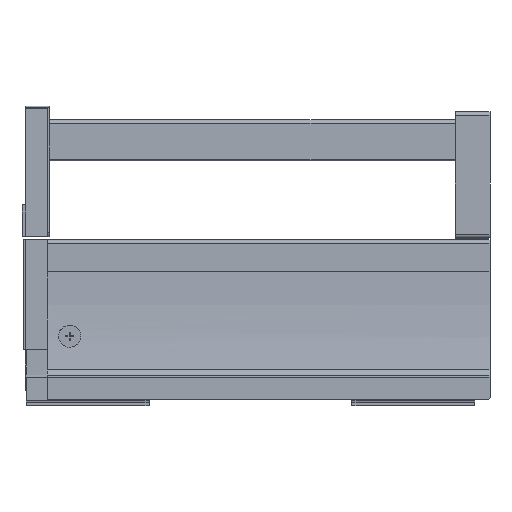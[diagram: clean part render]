
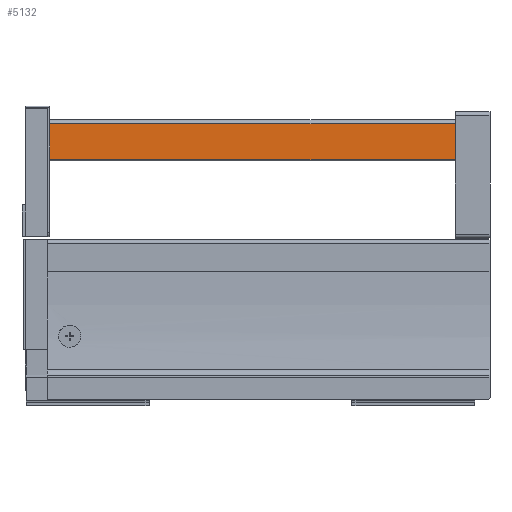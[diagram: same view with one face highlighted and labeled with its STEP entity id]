
A CAD part, left-side view. The second image highlights one B-rep face of the part: STEP entity #5132.
In plain terms, the highlighted planar face has unit normal (-1, 0, 0).
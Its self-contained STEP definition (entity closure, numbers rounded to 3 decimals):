
#480 = EDGE_CURVE ( 'NONE', #4769, #4768, #3591, .T. ) ;
#642 = EDGE_CURVE ( 'NONE', #4556, #4769, #3755, .T. ) ;
#656 = EDGE_CURVE ( 'NONE', #4555, #4768, #3786, .T. ) ;
#660 = EDGE_CURVE ( 'NONE', #4555, #4556, #3794, .T. ) ;
#1264 = FACE_OUTER_BOUND ( 'NONE', #2926, .T. ) ;
#1389 = CARTESIAN_POINT ( 'NONE',  ( -17.15, 25.45, 166.098 ) ) ;
#1396 = DIRECTION ( 'NONE',  ( 0., 0., -1. ) ) ;
#1585 = CARTESIAN_POINT ( 'NONE',  ( -17.15, 438.5, 166.098 ) ) ;
#1603 = DIRECTION ( 'NONE',  ( 0., -1., 0. ) ) ;
#1632 = CARTESIAN_POINT ( 'NONE',  ( -17.15, 438.5, 140.048 ) ) ;
#1633 = DIRECTION ( 'NONE',  ( 0., -1., 0. ) ) ;
#1641 = CARTESIAN_POINT ( 'NONE',  ( -17.15, 322.25, 166.098 ) ) ;
#1642 = DIRECTION ( 'NONE',  ( 0., 0., 1. ) ) ;
#1985 = CARTESIAN_POINT ( 'NONE',  ( -17.15, 322.25, 140.048 ) ) ;
#1986 = CARTESIAN_POINT ( 'NONE',  ( -17.15, 322.25, 166.098 ) ) ;
#2198 = CARTESIAN_POINT ( 'NONE',  ( -17.15, 25.45, 140.048 ) ) ;
#2199 = CARTESIAN_POINT ( 'NONE',  ( -17.15, 25.45, 166.098 ) ) ;
#2798 = CARTESIAN_POINT ( 'NONE',  ( -17.15, 438.5, 166.098 ) ) ;
#2799 = PLANE ( 'NONE',  #4113 ) ;
#2800 = DIRECTION ( 'NONE',  ( -1., 0., 0. ) ) ;
#2801 = DIRECTION ( 'NONE',  ( 0., 0., -1. ) ) ;
#2926 = EDGE_LOOP ( 'NONE', ( #3113, #3114, #3115, #3116 ) ) ;
#3113 = ORIENTED_EDGE ( 'NONE', *, *, #656, .T. ) ;
#3114 = ORIENTED_EDGE ( 'NONE', *, *, #480, .F. ) ;
#3115 = ORIENTED_EDGE ( 'NONE', *, *, #642, .F. ) ;
#3116 = ORIENTED_EDGE ( 'NONE', *, *, #660, .F. ) ;
#3577 = VECTOR ( 'NONE', #1396, 1000. ) ;
#3591 = LINE ( 'NONE', #1389, #3577 ) ;
#3755 = LINE ( 'NONE', #1585, #3759 ) ;
#3759 = VECTOR ( 'NONE', #1603, 1000. ) ;
#3786 = LINE ( 'NONE', #1632, #3787 ) ;
#3787 = VECTOR ( 'NONE', #1633, 1000. ) ;
#3794 = LINE ( 'NONE', #1641, #3795 ) ;
#3795 = VECTOR ( 'NONE', #1642, 1000. ) ;
#4113 = AXIS2_PLACEMENT_3D ( 'NONE', #2798, #2800, #2801 ) ;
#4555 = VERTEX_POINT ( 'NONE', #1985 ) ;
#4556 = VERTEX_POINT ( 'NONE', #1986 ) ;
#4768 = VERTEX_POINT ( 'NONE', #2198 ) ;
#4769 = VERTEX_POINT ( 'NONE', #2199 ) ;
#5132 = ADVANCED_FACE ( 'NONE', ( #1264 ), #2799, .T. ) ;
